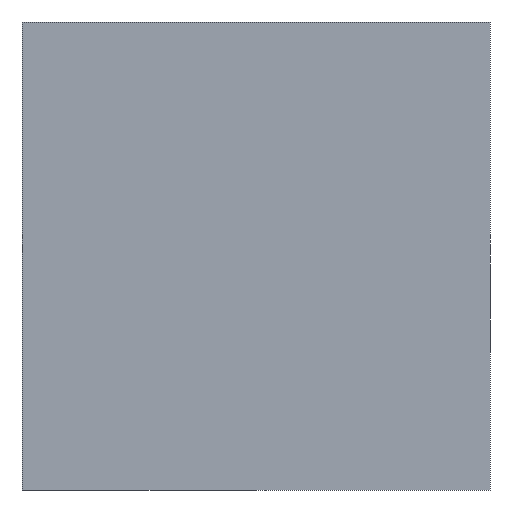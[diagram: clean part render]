
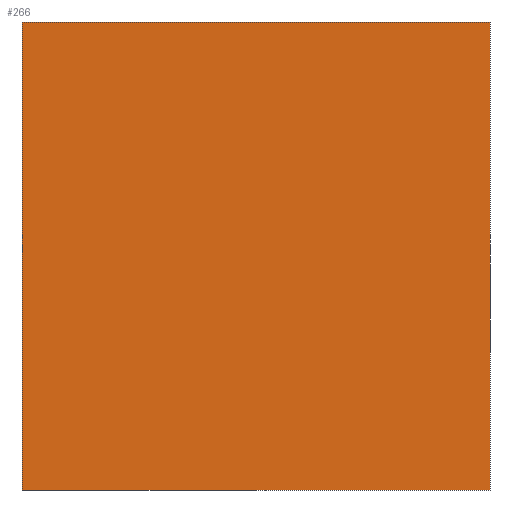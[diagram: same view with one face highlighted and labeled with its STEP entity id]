
A CAD part, left-side view. The second image highlights one B-rep face of the part: STEP entity #266.
In plain terms, the highlighted planar face has unit normal (-1, 0, 0).
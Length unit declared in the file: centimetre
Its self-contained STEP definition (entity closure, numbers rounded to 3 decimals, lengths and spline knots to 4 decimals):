
#2 = ORIENTED_EDGE ( 'NONE', *, *, #78, .F. ) ;
#26 = DIRECTION ( 'NONE',  ( 0., 0., -1. ) ) ;
#43 = DIRECTION ( 'NONE',  ( 0., 0., -1. ) ) ;
#59 = DIRECTION ( 'NONE',  ( 1., 0., 0. ) ) ;
#66 = CARTESIAN_POINT ( 'NONE',  ( 0., 1000., 0. ) ) ;
#78 = EDGE_CURVE ( 'NONE', #313, #426, #212, .T. ) ;
#91 = LINE ( 'NONE', #143, #449 ) ;
#105 = CARTESIAN_POINT ( 'NONE',  ( 0., 1000., 1000. ) ) ;
#125 = LINE ( 'NONE', #66, #168 ) ;
#141 = EDGE_CURVE ( 'NONE', #582, #475, #125, .T. ) ;
#143 = CARTESIAN_POINT ( 'NONE',  ( 0., 0., 1000. ) ) ;
#146 = CARTESIAN_POINT ( 'NONE',  ( 0., 1000., 1000. ) ) ;
#168 = VECTOR ( 'NONE', #291, 100. ) ;
#176 = CARTESIAN_POINT ( 'NONE',  ( 0., 0., 1000. ) ) ;
#208 = EDGE_CURVE ( 'NONE', #313, #582, #412, .T. ) ;
#212 = LINE ( 'NONE', #638, #300 ) ;
#248 = EDGE_CURVE ( 'NONE', #426, #475, #91, .T. ) ;
#266 = ADVANCED_FACE ( 'NONE', ( #588 ), #529, .F. ) ;
#291 = DIRECTION ( 'NONE',  ( 0., -1., 0. ) ) ;
#300 = VECTOR ( 'NONE', #367, 100. ) ;
#301 = VECTOR ( 'NONE', #26, 100. ) ;
#313 = VERTEX_POINT ( 'NONE', #491 ) ;
#351 = CARTESIAN_POINT ( 'NONE',  ( 0., 0., 0. ) ) ;
#367 = DIRECTION ( 'NONE',  ( 0., -1., 0. ) ) ;
#412 = LINE ( 'NONE', #146, #301 ) ;
#414 = AXIS2_PLACEMENT_3D ( 'NONE', #105, #59, #534 ) ;
#426 = VERTEX_POINT ( 'NONE', #176 ) ;
#433 = ORIENTED_EDGE ( 'NONE', *, *, #208, .T. ) ;
#449 = VECTOR ( 'NONE', #43, 100. ) ;
#475 = VERTEX_POINT ( 'NONE', #351 ) ;
#491 = CARTESIAN_POINT ( 'NONE',  ( 0., 1000., 1000. ) ) ;
#529 = PLANE ( 'NONE',  #414 ) ;
#534 = DIRECTION ( 'NONE',  ( 0., 0., -1. ) ) ;
#582 = VERTEX_POINT ( 'NONE', #683 ) ;
#588 = FACE_OUTER_BOUND ( 'NONE', #663, .T. ) ;
#631 = ORIENTED_EDGE ( 'NONE', *, *, #248, .F. ) ;
#638 = CARTESIAN_POINT ( 'NONE',  ( 0., 1000., 1000. ) ) ;
#640 = ORIENTED_EDGE ( 'NONE', *, *, #141, .T. ) ;
#663 = EDGE_LOOP ( 'NONE', ( #640, #631, #2, #433 ) ) ;
#683 = CARTESIAN_POINT ( 'NONE',  ( 0., 1000., 0. ) ) ;
